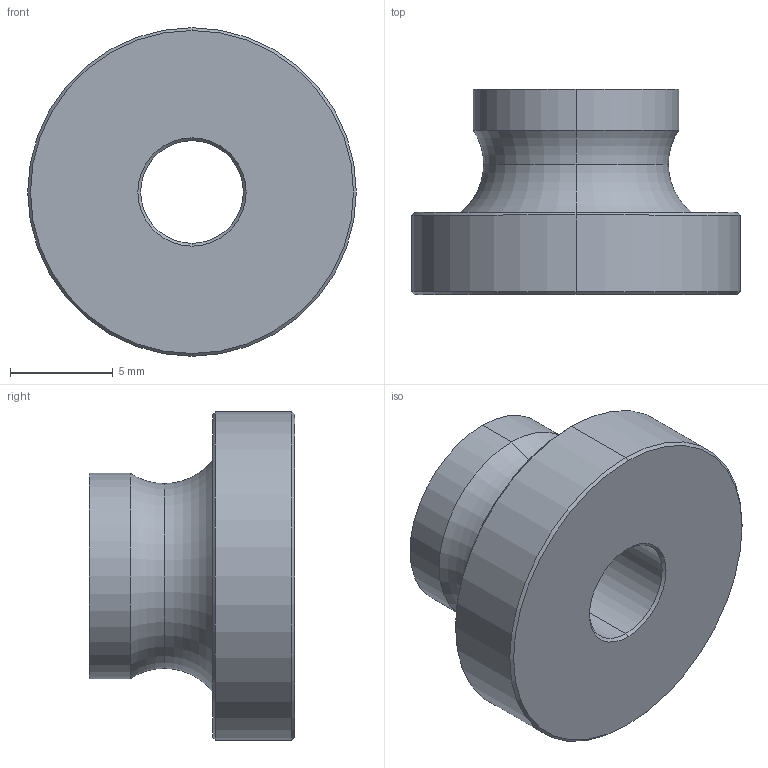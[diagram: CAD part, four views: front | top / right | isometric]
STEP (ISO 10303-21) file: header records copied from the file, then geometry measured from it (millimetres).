
FILE_DESCRIPTION (( 'STEP AP214' ), '1' );
FILE_NAME ('143005.STEP', '2023-10-10T13:18:25', ( '' ), ( '' ), 'SwSTEP 2.0', 'SolidWorks 2022', '' );
FILE_SCHEMA (( 'AUTOMOTIVE_DESIGN' ));
Length unit declared in the file: millimetre
Products named in the file (1): 143005
Bounding box: 16 x 10 x 16 mm (x, y, z)
Volume: 1037.9 mm3; surface area: 888.6 mm2
Topology: 1 solids, 1 shells, 25 faces, 50 edges, 28 vertices
Faces by surface type: cone 10, cylinder 8, torus 4, plane 3
Entity records: 686 total; most frequent: DIRECTION 134, CARTESIAN_POINT 104, ORIENTED_EDGE 100, AXIS2_PLACEMENT_3D 58, EDGE_CURVE 50, CIRCLE 32, VERTEX_POINT 28, EDGE_LOOP 28
